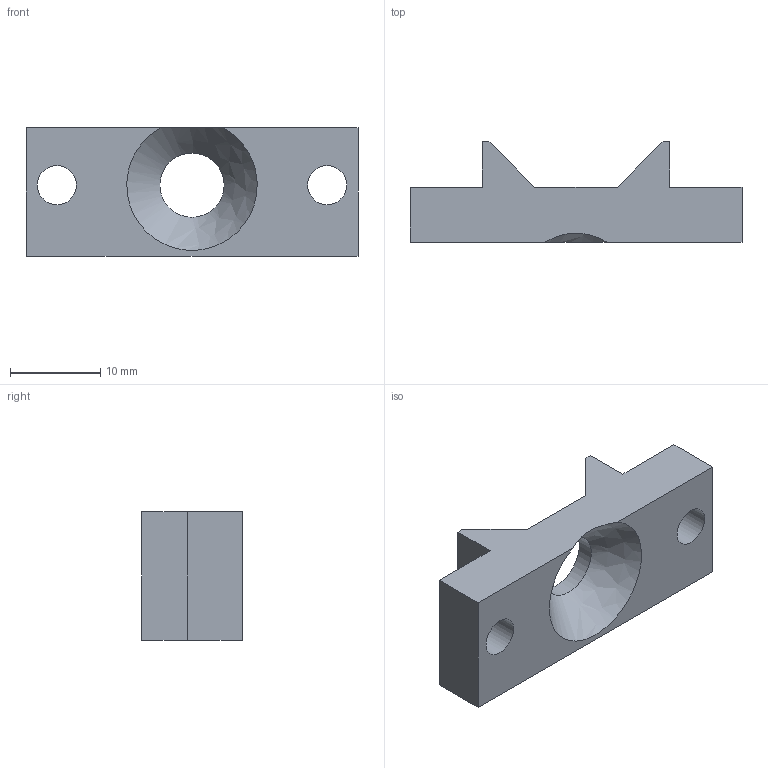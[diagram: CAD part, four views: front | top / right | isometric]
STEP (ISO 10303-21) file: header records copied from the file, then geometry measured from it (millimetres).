
FILE_DESCRIPTION((''),'2;1');
FILE_NAME('C:\1 WIP\985281 Valve Mtg Brkt.stp','2009-09-29T08:35:05',('patch'),(''),'Autodesk Inventor 2010','Autodesk Inventor 2010','');
FILE_SCHEMA(('AUTOMOTIVE_DESIGN { 1 0 10303 214 1 1 1 1 }'));
Length unit declared in the file: inch
Products named in the file (1): 985281 Valve Mtg Brkt
Bounding box: 36.83 x 11.18 x 14.22 mm (x, y, z)
Volume: 3014.6 mm3; surface area: 2069.2 mm2
Topology: 1 solids, 1 shells, 18 faces, 51 edges, 34 vertices
Faces by surface type: plane 14, bspline 2, cylinder 2
Full cylindrical faces by diameter (mm): 4.343 x2
Entity records: 609 total; most frequent: CARTESIAN_POINT 132, ORIENTED_EDGE 90, DIRECTION 85, EDGE_CURVE 45, VECTOR 37, LINE 37, VERTEX_POINT 32, EDGE_LOOP 27
